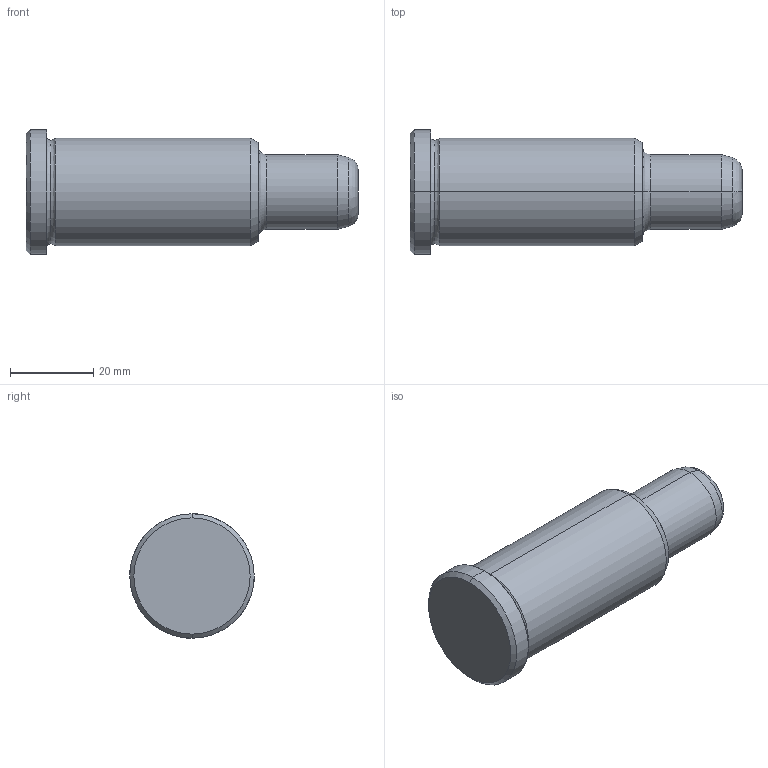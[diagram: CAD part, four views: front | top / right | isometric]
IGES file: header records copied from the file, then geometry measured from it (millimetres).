
Start section: START RECORD GO HERE.
Global section: file name: 351-18X56X80.igs; native system: DASSAULT SYSTEMES CATIA V5 R20 - www.3ds.com; preprocessor: CATIA Version 5 Release 20 ; author: Utente; organization: NB04-ASUS; date: 20210818.150355; units: millimetre
Bounding box: 80 x 30 x 30 mm (x, y, z)
Surface area: 7135.5 mm2 (no closed solid volume)
Topology: 0 solids, 0 shells, 24 faces, 140 edges, 140 vertices
Faces by surface type: revolution 20, plane 4
